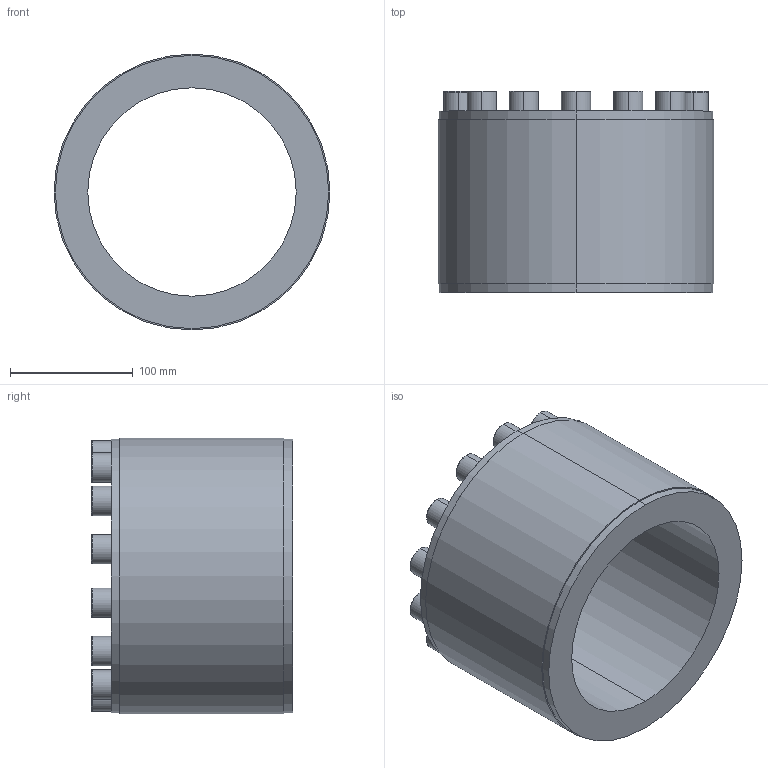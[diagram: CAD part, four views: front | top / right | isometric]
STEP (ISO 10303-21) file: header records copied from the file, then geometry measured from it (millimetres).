
FILE_DESCRIPTION (( 'STEP AP203' ), '1' );
FILE_NAME ('PL-D1 170-225.STEP', '2021-10-23T00:20:22', ( '' ), ( '' ), 'SwSTEP 2.0', 'SolidWorks 2018', '' );
FILE_SCHEMA (( 'CONFIG_CONTROL_DESIGN' ));
Length unit declared in the file: millimetre
Products named in the file (1): PL-D1 170-225
Bounding box: 225 x 164 x 225 mm (x, y, z)
Volume: 2597706.8 mm3; surface area: 239787.9 mm2
Topology: 1 solids, 1 shells, 180 faces, 416 edges, 268 vertices
Faces by surface type: plane 116, cylinder 36, torus 28
Entity records: 5165 total; most frequent: DIRECTION 906, CARTESIAN_POINT 865, ORIENTED_EDGE 832, EDGE_CURVE 416, AXIS2_PLACEMENT_3D 309, LINE 288, VECTOR 288, VERTEX_POINT 268
